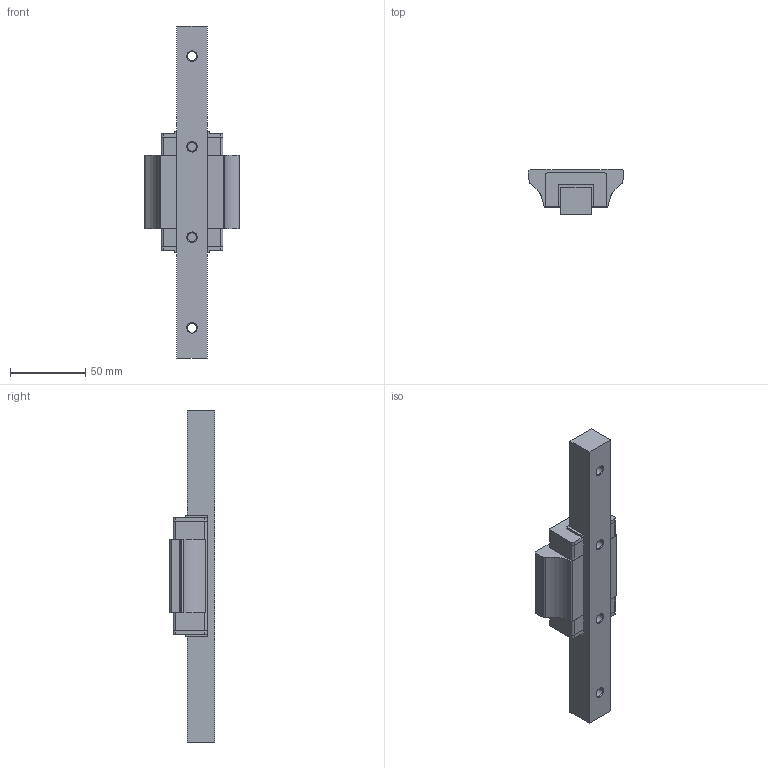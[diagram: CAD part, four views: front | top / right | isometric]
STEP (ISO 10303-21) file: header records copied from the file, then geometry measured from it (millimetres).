
FILE_DESCRIPTION( ( 'STEP File Generated from CADKEY Workshop EX' ), '1' );
FILE_NAME( 'Part1', '2004-11-06T00:00:53', ( 'CADKEY USER' ), ( 'CADKEY CORPORATION' ), 'ACIS Interop R11 SP4', 'CADKEY Workshop EX V21.05.02 (0359)', 'CK' );
FILE_SCHEMA( ( 'CONFIG_CONTROL_DESIGN' ) );
Length unit declared in the file: millimetre
Products named in the file (7): 1; 2; 3; 4; 5; 6; 7
Bounding box: 63 x 30 x 220 mm (x, y, z)
Volume: 146290 mm3; surface area: 40794.1 mm2
Topology: 6 solids, 6 shells, 148 faces, 369 edges, 242 vertices
Faces by surface type: plane 88, cylinder 44, cone 16
Entity records: 4723 total; most frequent: DIRECTION 783, CARTESIAN_POINT 766, ORIENTED_EDGE 736, EDGE_CURVE 368, LINE 265, VECTOR 265, AXIS2_PLACEMENT_3D 259, VERTEX_POINT 240
